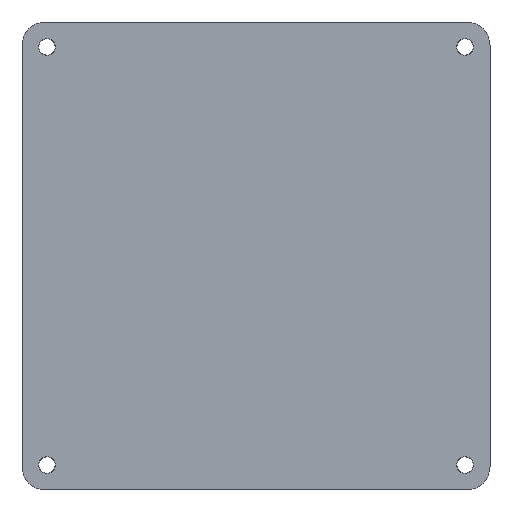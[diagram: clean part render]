
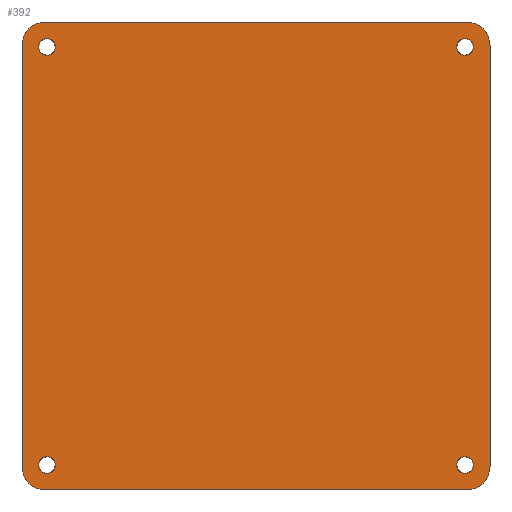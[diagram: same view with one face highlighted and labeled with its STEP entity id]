
A CAD part, top view. The second image highlights one B-rep face of the part: STEP entity #392.
In plain terms, the highlighted planar face has unit normal (0, 0, 1).
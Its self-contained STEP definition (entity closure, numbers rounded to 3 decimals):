
#3 = VECTOR ( 'NONE', #766, 1000. ) ;
#6 = CARTESIAN_POINT ( 'NONE',  ( -30., -30., 2.5 ) ) ;
#9 = FACE_BOUND ( 'NONE', #59, .T. ) ;
#10 = DIRECTION ( 'NONE',  ( 0., 1., 0. ) ) ;
#11 = EDGE_CURVE ( 'NONE', #608, #640, #244, .T. ) ;
#14 = EDGE_CURVE ( 'NONE', #390, #253, #757, .T. ) ;
#25 = VERTEX_POINT ( 'NONE', #262 ) ;
#36 = CARTESIAN_POINT ( 'NONE',  ( 30., 27., 2.5 ) ) ;
#37 = CIRCLE ( 'NONE', #503, 1.05 ) ;
#38 = AXIS2_PLACEMENT_3D ( 'NONE', #740, #720, #169 ) ;
#45 = CARTESIAN_POINT ( 'NONE',  ( 26.8, 26.8, 2.5 ) ) ;
#47 = ORIENTED_EDGE ( 'NONE', *, *, #612, .F. ) ;
#50 = DIRECTION ( 'NONE',  ( 0., 0., 1. ) ) ;
#51 = EDGE_CURVE ( 'NONE', #798, #364, #334, .T. ) ;
#55 = CIRCLE ( 'NONE', #387, 3. ) ;
#57 = LINE ( 'NONE', #388, #672 ) ;
#59 = EDGE_LOOP ( 'NONE', ( #676, #443 ) ) ;
#63 = FACE_BOUND ( 'NONE', #572, .T. ) ;
#71 = FACE_OUTER_BOUND ( 'NONE', #80, .T. ) ;
#75 = PLANE ( 'NONE',  #550 ) ;
#80 = EDGE_LOOP ( 'NONE', ( #368, #239, #448, #325, #191, #476, #105, #208 ) ) ;
#97 = CARTESIAN_POINT ( 'NONE',  ( -27., 30., 2.5 ) ) ;
#98 = VERTEX_POINT ( 'NONE', #590 ) ;
#103 = AXIS2_PLACEMENT_3D ( 'NONE', #151, #274, #524 ) ;
#104 = AXIS2_PLACEMENT_3D ( 'NONE', #473, #180, #425 ) ;
#105 = ORIENTED_EDGE ( 'NONE', *, *, #402, .T. ) ;
#107 = EDGE_LOOP ( 'NONE', ( #259, #812 ) ) ;
#131 = CARTESIAN_POINT ( 'NONE',  ( -26.8, 26.8, 2.5 ) ) ;
#151 = CARTESIAN_POINT ( 'NONE',  ( -26.8, -26.8, 2.5 ) ) ;
#153 = EDGE_CURVE ( 'NONE', #640, #608, #175, .T. ) ;
#156 = DIRECTION ( 'NONE',  ( 0., 0., 1. ) ) ;
#162 = EDGE_CURVE ( 'NONE', #677, #233, #527, .T. ) ;
#166 = CARTESIAN_POINT ( 'NONE',  ( 27.85, 26.8, 2.5 ) ) ;
#169 = DIRECTION ( 'NONE',  ( -1., 0., 0. ) ) ;
#171 = ORIENTED_EDGE ( 'NONE', *, *, #178, .F. ) ;
#173 = CARTESIAN_POINT ( 'NONE',  ( 26.8, -26.8, 2.5 ) ) ;
#175 = CIRCLE ( 'NONE', #103, 1.05 ) ;
#178 = EDGE_CURVE ( 'NONE', #498, #98, #37, .T. ) ;
#180 = DIRECTION ( 'NONE',  ( 0., 0., 1. ) ) ;
#191 = ORIENTED_EDGE ( 'NONE', *, *, #758, .T. ) ;
#193 = AXIS2_PLACEMENT_3D ( 'NONE', #45, #600, #408 ) ;
#200 = CARTESIAN_POINT ( 'NONE',  ( 30., -30., 2.5 ) ) ;
#208 = ORIENTED_EDGE ( 'NONE', *, *, #628, .T. ) ;
#226 = CARTESIAN_POINT ( 'NONE',  ( 27., 30., 2.5 ) ) ;
#231 = DIRECTION ( 'NONE',  ( -1., 0., 0. ) ) ;
#233 = VERTEX_POINT ( 'NONE', #97 ) ;
#234 = ORIENTED_EDGE ( 'NONE', *, *, #440, .F. ) ;
#239 = ORIENTED_EDGE ( 'NONE', *, *, #809, .T. ) ;
#244 = CIRCLE ( 'NONE', #460, 1.05 ) ;
#245 = AXIS2_PLACEMENT_3D ( 'NONE', #131, #711, #528 ) ;
#249 = EDGE_CURVE ( 'NONE', #666, #372, #447, .T. ) ;
#253 = VERTEX_POINT ( 'NONE', #36 ) ;
#259 = ORIENTED_EDGE ( 'NONE', *, *, #661, .F. ) ;
#261 = DIRECTION ( 'NONE',  ( -1., 0., 0. ) ) ;
#262 = CARTESIAN_POINT ( 'NONE',  ( 27., -30., 2.5 ) ) ;
#267 = VECTOR ( 'NONE', #10, 1000. ) ;
#270 = DIRECTION ( 'NONE',  ( 0., 0., 1. ) ) ;
#274 = DIRECTION ( 'NONE',  ( 0., 0., 1. ) ) ;
#281 = AXIS2_PLACEMENT_3D ( 'NONE', #404, #270, #773 ) ;
#284 = CARTESIAN_POINT ( 'NONE',  ( -26.8, 26.8, 2.5 ) ) ;
#290 = VECTOR ( 'NONE', #716, 1000. ) ;
#295 = EDGE_LOOP ( 'NONE', ( #47, #555 ) ) ;
#302 = VERTEX_POINT ( 'NONE', #728 ) ;
#312 = CARTESIAN_POINT ( 'NONE',  ( 0., 0., 2.5 ) ) ;
#317 = DIRECTION ( 'NONE',  ( 0., 0., 1. ) ) ;
#325 = ORIENTED_EDGE ( 'NONE', *, *, #594, .T. ) ;
#334 = CIRCLE ( 'NONE', #281, 1.05 ) ;
#355 = DIRECTION ( 'NONE',  ( -1., 0., 0. ) ) ;
#364 = VERTEX_POINT ( 'NONE', #389 ) ;
#368 = ORIENTED_EDGE ( 'NONE', *, *, #14, .T. ) ;
#369 = CARTESIAN_POINT ( 'NONE',  ( 27.85, -26.8, 2.5 ) ) ;
#372 = VERTEX_POINT ( 'NONE', #815 ) ;
#374 = DIRECTION ( 'NONE',  ( 0., -1., 0. ) ) ;
#378 = CARTESIAN_POINT ( 'NONE',  ( 30., -27., 2.5 ) ) ;
#379 = DIRECTION ( 'NONE',  ( -1., 0., 0. ) ) ;
#387 = AXIS2_PLACEMENT_3D ( 'NONE', #638, #317, #561 ) ;
#388 = CARTESIAN_POINT ( 'NONE',  ( -30., -30., 2.5 ) ) ;
#389 = CARTESIAN_POINT ( 'NONE',  ( 25.75, -26.8, 2.5 ) ) ;
#390 = VERTEX_POINT ( 'NONE', #378 ) ;
#392 = ADVANCED_FACE ( 'NONE', ( #760, #9, #63, #574, #71 ), #75, .F. ) ;
#396 = CIRCLE ( 'NONE', #104, 3. ) ;
#401 = DIRECTION ( 'NONE',  ( -1., 0., 0. ) ) ;
#402 = EDGE_CURVE ( 'NONE', #558, #25, #753, .T. ) ;
#404 = CARTESIAN_POINT ( 'NONE',  ( 26.8, -26.8, 2.5 ) ) ;
#405 = AXIS2_PLACEMENT_3D ( 'NONE', #619, #50, #603 ) ;
#406 = CARTESIAN_POINT ( 'NONE',  ( -27.85, -26.8, 2.5 ) ) ;
#408 = DIRECTION ( 'NONE',  ( -1., 0., 0. ) ) ;
#419 = DIRECTION ( 'NONE',  ( 0., 0., 1. ) ) ;
#423 = VERTEX_POINT ( 'NONE', #756 ) ;
#425 = DIRECTION ( 'NONE',  ( -1., 0., 0. ) ) ;
#439 = DIRECTION ( 'NONE',  ( 0., 0., 1. ) ) ;
#440 = EDGE_CURVE ( 'NONE', #98, #498, #736, .T. ) ;
#443 = ORIENTED_EDGE ( 'NONE', *, *, #11, .F. ) ;
#447 = CIRCLE ( 'NONE', #405, 1.05 ) ;
#448 = ORIENTED_EDGE ( 'NONE', *, *, #162, .T. ) ;
#460 = AXIS2_PLACEMENT_3D ( 'NONE', #563, #439, #379 ) ;
#464 = CARTESIAN_POINT ( 'NONE',  ( -30., 30., 2.5 ) ) ;
#471 = AXIS2_PLACEMENT_3D ( 'NONE', #487, #609, #231 ) ;
#473 = CARTESIAN_POINT ( 'NONE',  ( -27., 27., 2.5 ) ) ;
#476 = ORIENTED_EDGE ( 'NONE', *, *, #576, .T. ) ;
#477 = CARTESIAN_POINT ( 'NONE',  ( -25.75, -26.8, 2.5 ) ) ;
#487 = CARTESIAN_POINT ( 'NONE',  ( -27., -27., 2.5 ) ) ;
#488 = CIRCLE ( 'NONE', #38, 3. ) ;
#498 = VERTEX_POINT ( 'NONE', #592 ) ;
#503 = AXIS2_PLACEMENT_3D ( 'NONE', #284, #156, #401 ) ;
#524 = DIRECTION ( 'NONE',  ( -1., 0., 0. ) ) ;
#527 = LINE ( 'NONE', #464, #290 ) ;
#528 = DIRECTION ( 'NONE',  ( -1., 0., 0. ) ) ;
#536 = CIRCLE ( 'NONE', #193, 1.05 ) ;
#550 = AXIS2_PLACEMENT_3D ( 'NONE', #312, #636, #261 ) ;
#555 = ORIENTED_EDGE ( 'NONE', *, *, #51, .F. ) ;
#558 = VERTEX_POINT ( 'NONE', #775 ) ;
#561 = DIRECTION ( 'NONE',  ( -1., 0., 0. ) ) ;
#563 = CARTESIAN_POINT ( 'NONE',  ( -26.8, -26.8, 2.5 ) ) ;
#572 = EDGE_LOOP ( 'NONE', ( #171, #234 ) ) ;
#574 = FACE_BOUND ( 'NONE', #107, .T. ) ;
#576 = EDGE_CURVE ( 'NONE', #302, #558, #722, .T. ) ;
#590 = CARTESIAN_POINT ( 'NONE',  ( -25.75, 26.8, 2.5 ) ) ;
#592 = CARTESIAN_POINT ( 'NONE',  ( -27.85, 26.8, 2.5 ) ) ;
#594 = EDGE_CURVE ( 'NONE', #233, #423, #396, .T. ) ;
#600 = DIRECTION ( 'NONE',  ( 0., 0., 1. ) ) ;
#603 = DIRECTION ( 'NONE',  ( -1., 0., 0. ) ) ;
#608 = VERTEX_POINT ( 'NONE', #477 ) ;
#609 = DIRECTION ( 'NONE',  ( 0., 0., 1. ) ) ;
#612 = EDGE_CURVE ( 'NONE', #364, #798, #649, .T. ) ;
#619 = CARTESIAN_POINT ( 'NONE',  ( 26.8, 26.8, 2.5 ) ) ;
#628 = EDGE_CURVE ( 'NONE', #25, #390, #488, .T. ) ;
#636 = DIRECTION ( 'NONE',  ( 0., 0., -1. ) ) ;
#638 = CARTESIAN_POINT ( 'NONE',  ( 27., 27., 2.5 ) ) ;
#640 = VERTEX_POINT ( 'NONE', #406 ) ;
#649 = CIRCLE ( 'NONE', #713, 1.05 ) ;
#661 = EDGE_CURVE ( 'NONE', #372, #666, #536, .T. ) ;
#666 = VERTEX_POINT ( 'NONE', #166 ) ;
#672 = VECTOR ( 'NONE', #374, 1000. ) ;
#676 = ORIENTED_EDGE ( 'NONE', *, *, #153, .F. ) ;
#677 = VERTEX_POINT ( 'NONE', #226 ) ;
#711 = DIRECTION ( 'NONE',  ( 0., 0., 1. ) ) ;
#713 = AXIS2_PLACEMENT_3D ( 'NONE', #173, #419, #355 ) ;
#716 = DIRECTION ( 'NONE',  ( -1., 0., 0. ) ) ;
#720 = DIRECTION ( 'NONE',  ( 0., 0., 1. ) ) ;
#722 = CIRCLE ( 'NONE', #471, 3. ) ;
#728 = CARTESIAN_POINT ( 'NONE',  ( -30., -27., 2.5 ) ) ;
#736 = CIRCLE ( 'NONE', #245, 1.05 ) ;
#740 = CARTESIAN_POINT ( 'NONE',  ( 27., -27., 2.5 ) ) ;
#753 = LINE ( 'NONE', #6, #3 ) ;
#756 = CARTESIAN_POINT ( 'NONE',  ( -30., 27., 2.5 ) ) ;
#757 = LINE ( 'NONE', #200, #267 ) ;
#758 = EDGE_CURVE ( 'NONE', #423, #302, #57, .T. ) ;
#760 = FACE_BOUND ( 'NONE', #295, .T. ) ;
#766 = DIRECTION ( 'NONE',  ( 1., 0., 0. ) ) ;
#773 = DIRECTION ( 'NONE',  ( -1., 0., 0. ) ) ;
#775 = CARTESIAN_POINT ( 'NONE',  ( -27., -30., 2.5 ) ) ;
#798 = VERTEX_POINT ( 'NONE', #369 ) ;
#809 = EDGE_CURVE ( 'NONE', #253, #677, #55, .T. ) ;
#812 = ORIENTED_EDGE ( 'NONE', *, *, #249, .F. ) ;
#815 = CARTESIAN_POINT ( 'NONE',  ( 25.75, 26.8, 2.5 ) ) ;
